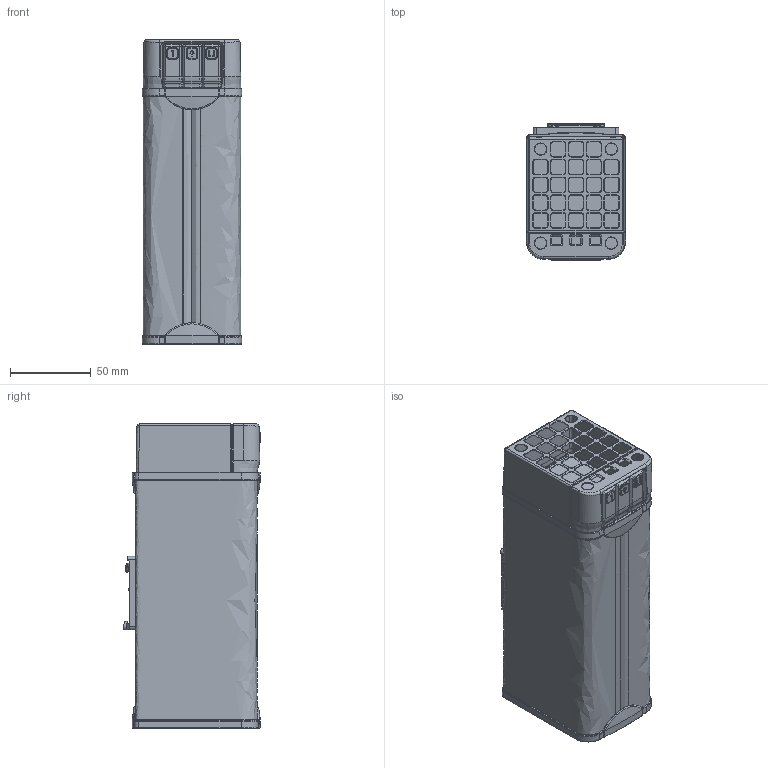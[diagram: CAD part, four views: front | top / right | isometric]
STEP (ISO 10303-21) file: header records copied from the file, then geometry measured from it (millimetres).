
FILE_DESCRIPTION(/* description */ (''),/* implementation_level */ '2;1');
FILE_NAME(/* name */ 'HTP080',/* time_stamp */ '2020-02-11T11:41:48+01:00',/* author */ (''),/* organization */ (''),/* preprocessor_version */ 'ST-DEVELOPER v14',/* originating_system */ '',/* authorisation */ '');
FILE_SCHEMA (('CONFIG_CONTROL_DESIGN'));
Length unit declared in the file: millimetre
Products named in the file (4): Document; (#122585) Base plastica CLIP; (#134059) Rivetto; (#111221) Molla CLIP
Assembly tree (4 placements, depth 2):
  Document
    (#122585) Base plastica CLIP
    (#134059) Rivetto  x2
    (#111221) Molla CLIP
Bounding box: 61.5 x 85.15 x 188 mm (x, y, z)
Volume: 663383.5 mm3; surface area: 75354.5 mm2
Topology: 5 solids, 7 shells, 1261 faces, 3357 edges, 2109 vertices
Faces by surface type: bspline 985, plane 276
Entity records: 68591 total; most frequent: CARTESIAN_POINT 50303, ORIENTED_EDGE 6154, EDGE_CURVE 3331, VERTEX_POINT 2099, B_SPLINE_CURVE_WITH_KNOTS 1551, EDGE_LOOP 1328, ADVANCED_FACE 1252, FACE_OUTER_BOUND 1252
